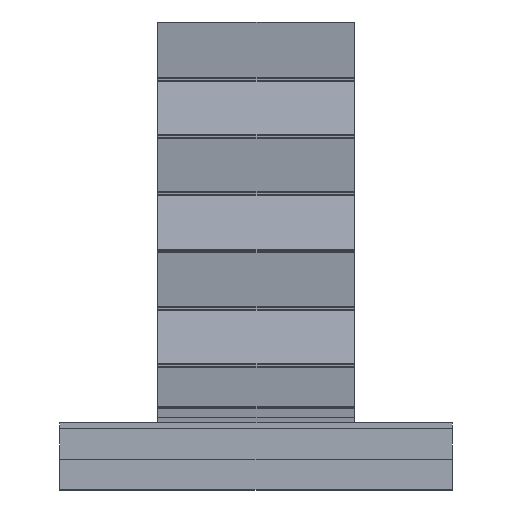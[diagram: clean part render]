
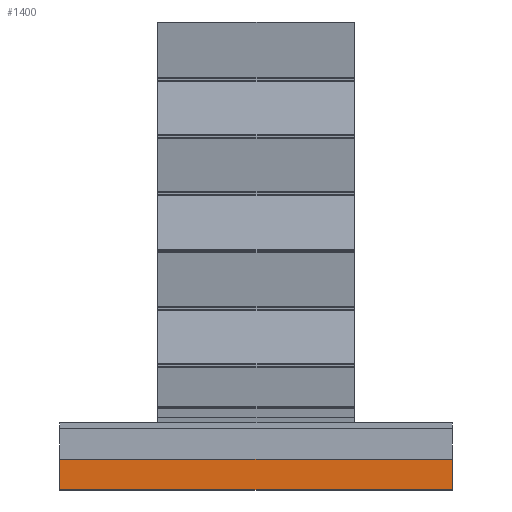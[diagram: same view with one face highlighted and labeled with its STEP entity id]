
A CAD part, left-side view. The second image highlights one B-rep face of the part: STEP entity #1400.
In plain terms, the highlighted planar face has unit normal (-1, 0, 0) as drawn and (0, -1, 0) by its records, which use the part's own axes.
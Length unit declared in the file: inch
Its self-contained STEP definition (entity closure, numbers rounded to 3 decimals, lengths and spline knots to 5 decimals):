
#122=FACE_OUTER_BOUND('',#220,.T.);
#220=EDGE_LOOP('',(#951,#952,#953,#954));
#324=LINE('',#2133,#480);
#327=LINE('',#2139,#483);
#328=LINE('',#2141,#484);
#329=LINE('',#2142,#485);
#480=VECTOR('',#1675,0.3125);
#483=VECTOR('',#1680,4.);
#484=VECTOR('',#1681,0.3125);
#485=VECTOR('',#1682,4.);
#632=VERTEX_POINT('',#2130);
#633=VERTEX_POINT('',#2132);
#635=VERTEX_POINT('',#2138);
#636=VERTEX_POINT('',#2140);
#740=EDGE_CURVE('',#633,#632,#324,.T.);
#743=EDGE_CURVE('',#632,#635,#327,.T.);
#744=EDGE_CURVE('',#636,#635,#328,.T.);
#745=EDGE_CURVE('',#633,#636,#329,.T.);
#951=ORIENTED_EDGE('',*,*,#743,.T.);
#952=ORIENTED_EDGE('',*,*,#744,.F.);
#953=ORIENTED_EDGE('',*,*,#745,.F.);
#954=ORIENTED_EDGE('',*,*,#740,.T.);
#1322=PLANE('',#1503);
#1400=ADVANCED_FACE('',(#122),#1322,.T.);
#1503=AXIS2_PLACEMENT_3D('',#2137,#1678,#1679);
#1675=DIRECTION('',(0.,0.,1.));
#1678=DIRECTION('center_axis',(0.,-1.,0.));
#1679=DIRECTION('ref_axis',(0.,0.,-1.));
#1680=DIRECTION('',(-1.,0.,0.));
#1681=DIRECTION('',(0.,0.,1.));
#1682=DIRECTION('',(-1.,0.,0.));
#2130=CARTESIAN_POINT('',(2.,-36.,0.3125));
#2132=CARTESIAN_POINT('',(2.,-36.,0.));
#2133=CARTESIAN_POINT('',(2.,-36.,0.));
#2137=CARTESIAN_POINT('Origin',(2.,-36.,0.));
#2138=CARTESIAN_POINT('',(-2.,-36.,0.3125));
#2139=CARTESIAN_POINT('',(2.,-36.,0.3125));
#2140=CARTESIAN_POINT('',(-2.,-36.,0.));
#2141=CARTESIAN_POINT('',(-2.,-36.,0.));
#2142=CARTESIAN_POINT('',(2.,-36.,0.));
